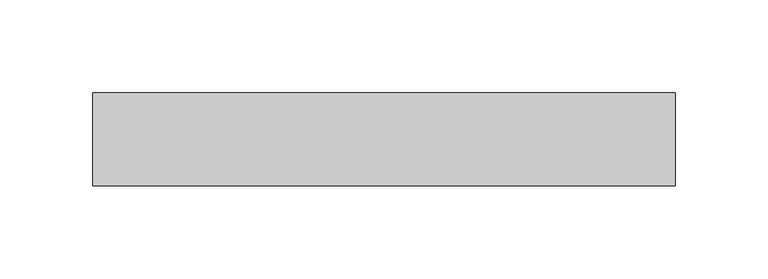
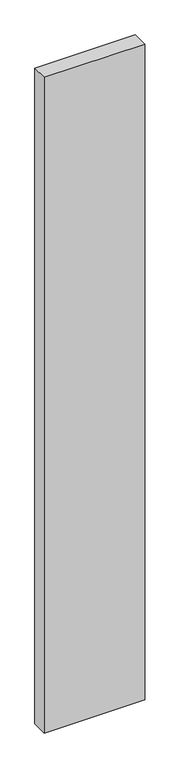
"""IFC4 building model written with IfcOpenShell, lengths in millimetres: plate geometry, Системная панель : Стекло(50мм)."""

from ifc_helpers import new_model, si_unit, origin, origin_with_axes, place, context, project, spatial, polyline, outline, extrude, source, transform, mapped, element, save


def plate_3d7a734e(model_context):
    return source(origin(), model_context, "Body", "SweptSolid", [
        extrude(outline(polyline([(157.0038035, -25.0), (-157.0038035, -25.0), (-157.0038035, 25.0), (157.0038035, 25.0), (157.0038035, -25.0)])), origin_with_axes(), (0.0, 0.0, 1.0), 2165.0),
    ])


if __name__ == "__main__":
    model = new_model("IFC4")
    model_context = context("Model", 3, world=origin())
    ifc_project = project(units=[si_unit("LENGTHUNIT", "METRE", prefix="MILLI")], contexts=[model_context])
    site = spatial("IfcSite", under=ifc_project)
    building = spatial("IfcBuilding", under=site)
    placement = place(None, origin())
    plate_shape = plate_3d7a734e(model_context)
    element("IfcPlate", 1, ObjectType="Системная панель : Стекло(50мм)", at=placement, inside=building, context=model_context, shape_type="MappedRepresentation", body=[
        mapped(plate_shape, transform((0.0, 0.0, 0.0), x_axis=(1.0, 0.0, 0.0), y_axis=(0.0, 1.0, 0.0), z_axis=(0.0, 0.0, 1.0))),
    ])
    save(model, "model.ifc")
